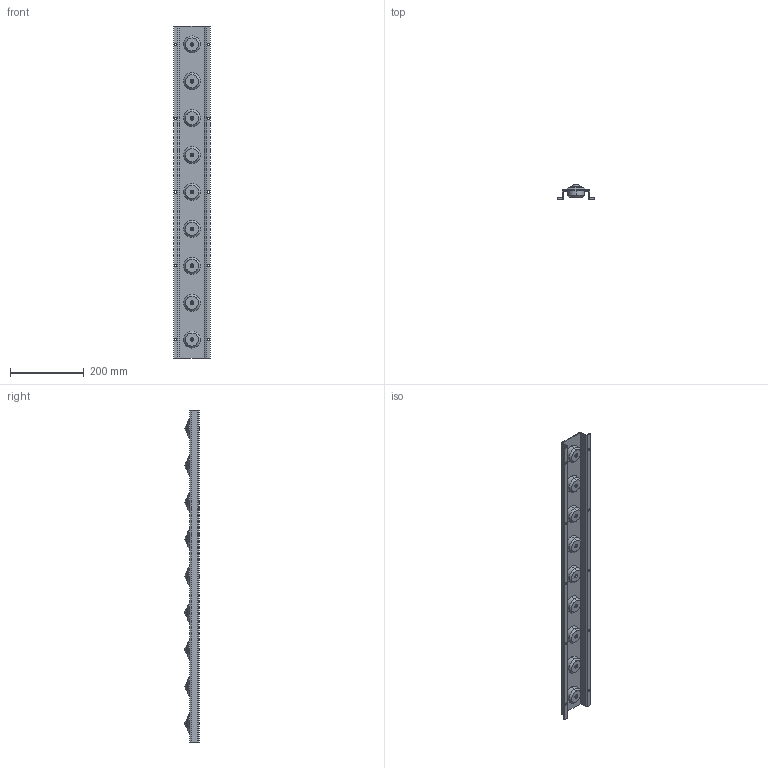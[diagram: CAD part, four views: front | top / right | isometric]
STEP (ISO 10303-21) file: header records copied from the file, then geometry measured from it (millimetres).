
FILE_DESCRIPTION (( 'STEP AP203' ), '1' );
FILE_NAME ('PVUFH-9.STEP', '2016-03-07T04:19:12', ( '' ), ( '' ), 'SwSTEP 2.0', 'SolidWorks 2013', '' );
FILE_SCHEMA (( 'CONFIG_CONTROL_DESIGN' ));
Length unit declared in the file: millimetre
Products named in the file (1): PVUFH-9
Bounding box: 100 x 40 x 900 mm (x, y, z)
Volume: 761520 mm3; surface area: 295517.3 mm2
Topology: 1 solids, 1 shells, 420 faces, 876 edges, 575 vertices
Faces by surface type: cylinder 226, plane 122, cone 54, sphere 18
Entity records: 11561 total; most frequent: DIRECTION 2278, CARTESIAN_POINT 1872, ORIENTED_EDGE 1752, AXIS2_PLACEMENT_3D 981, EDGE_CURVE 876, VERTEX_POINT 575, CIRCLE 560, EDGE_LOOP 557
